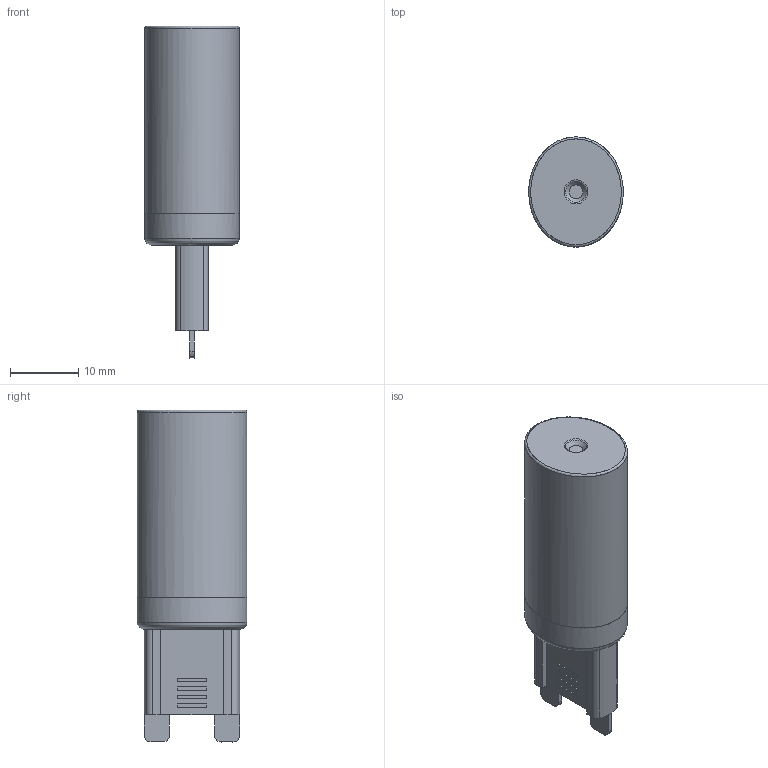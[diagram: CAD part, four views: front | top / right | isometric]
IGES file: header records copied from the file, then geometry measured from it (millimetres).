
Start section: SolidWorks IGES file using analytic representation for surfaces
Global section: file name: X:\PRODUKT\Modele 3D_WWW\_KOLEKCJE WWW\REFLECTOR\BULB-LED-G9-7503-7504\BULB-LED-G9-7503-7504.IGS; native system: SolidWorks 2021; preprocessor: SolidWorks 2021; author: gabriela.tworek; date: 220912.124706; units: millimetre
Bounding box: 13.89 x 16.16 x 48.8 mm (x, y, z)
Surface area: 5747 mm2 (no closed solid volume)
Topology: 0 solids, 0 shells, 281 faces, 1171 edges, 1163 vertices
Faces by surface type: bspline 269, revolution 12
